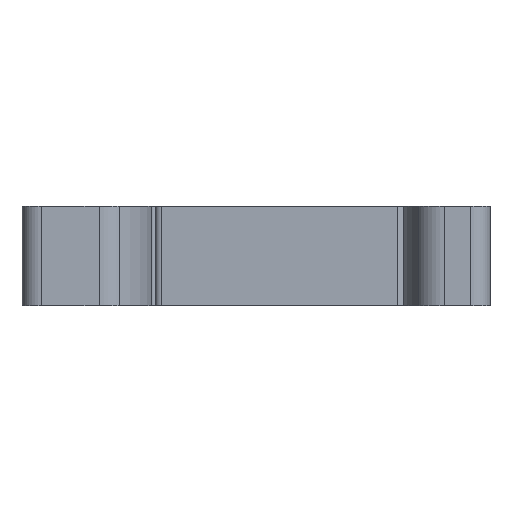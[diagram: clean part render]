
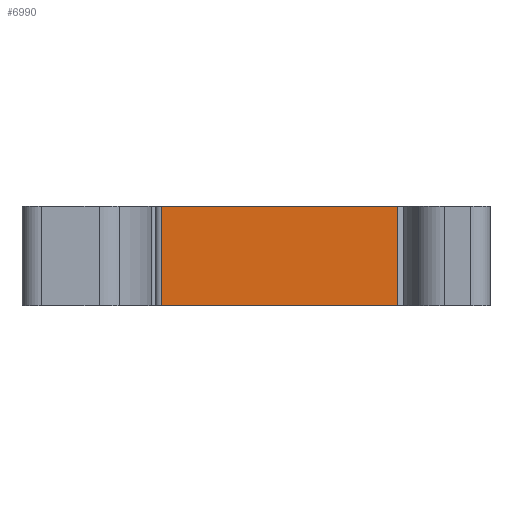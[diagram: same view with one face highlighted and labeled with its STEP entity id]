
A CAD part, front view. The second image highlights one B-rep face of the part: STEP entity #6990.
In plain terms, the highlighted planar face has unit normal (0, -1, 0).
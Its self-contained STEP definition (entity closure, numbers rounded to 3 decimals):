
#6600=CARTESIAN_POINT('',(101.767,95.002,-1.825));
#6610=DIRECTION('',(0.,-1.,0.));
#6620=DIRECTION('',(1.,0.,0.));
#6630=AXIS2_PLACEMENT_3D('',#6600,#6610,#6620);
#6640=PLANE('',#6630);
#6650=CARTESIAN_POINT('',(103.214,95.002,3.75));
#6660=DIRECTION('',(0.,-0.,1.));
#6670=VECTOR('',#6660,1.);
#6680=LINE('',#6650,#6670);
#6690=CARTESIAN_POINT('',(103.214,95.002,-1.825));
#6700=VERTEX_POINT('',#6690);
#6710=CARTESIAN_POINT('',(103.214,95.002,3.325));
#6720=VERTEX_POINT('',#6710);
#6730=EDGE_CURVE('',#6700,#6720,#6680,.T.);
#6740=ORIENTED_EDGE('',*,*,#6730,.T.);
#6750=CARTESIAN_POINT('',(104.514,95.002,-1.825));
#6760=DIRECTION('',(-1.,0.,0.));
#6770=VECTOR('',#6760,1.);
#6780=LINE('',#6750,#6770);
#6790=CARTESIAN_POINT('',(91.005,95.002,-1.825));
#6800=VERTEX_POINT('',#6790);
#6810=EDGE_CURVE('',#6700,#6800,#6780,.T.);
#6820=ORIENTED_EDGE('',*,*,#6810,.F.);
#6830=CARTESIAN_POINT('',(91.005,95.002,-1.825));
#6840=DIRECTION('',(0.,0.,1.));
#6850=VECTOR('',#6840,1.);
#6860=LINE('',#6830,#6850);
#6870=CARTESIAN_POINT('',(91.005,95.002,3.325));
#6880=VERTEX_POINT('',#6870);
#6890=EDGE_CURVE('',#6800,#6880,#6860,.T.);
#6900=ORIENTED_EDGE('',*,*,#6890,.F.);
#6910=CARTESIAN_POINT('',(104.514,95.002,3.325));
#6920=DIRECTION('',(1.,-0.,0.));
#6930=VECTOR('',#6920,1.);
#6940=LINE('',#6910,#6930);
#6950=EDGE_CURVE('',#6880,#6720,#6940,.T.);
#6960=ORIENTED_EDGE('',*,*,#6950,.F.);
#6970=EDGE_LOOP('',(#6960,#6900,#6820,#6740));
#6980=FACE_OUTER_BOUND('',#6970,.T.);
#6990=ADVANCED_FACE('',(#6980),#6640,.T.);
